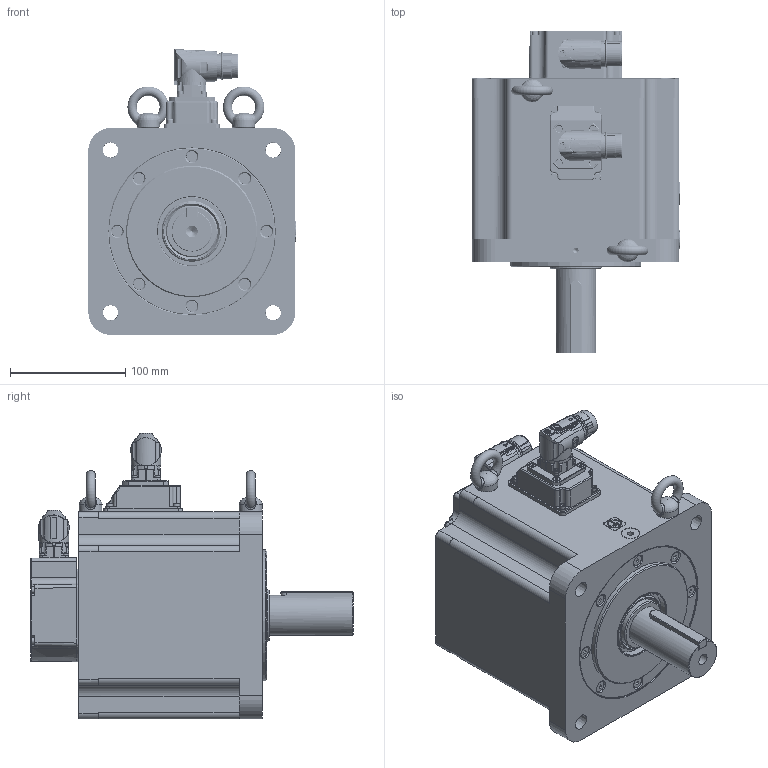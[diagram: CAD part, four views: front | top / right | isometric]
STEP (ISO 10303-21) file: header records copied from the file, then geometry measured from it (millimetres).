
FILE_DESCRIPTION( ( 'Unknown' ), '1' );
FILE_NAME( 'U:/05_Progetto TCE/010-TCE motor drawings/TCE180/vuoti/TCE180 6B XX 3 A2 0 C2.stp', 'Unknown', ( 'Unknown' ), ( 'Unknown' ), 'PSStep 17.0.49', 'Unknown', ' ' );
FILE_SCHEMA( ( 'AUTOMOTIVE_DESIGN { 1 0 10303 214 1 1 1 1 }' ) );
Length unit declared in the file: millimetre
Products named in the file (15): 1; 2; 3; 4; 5; 6; 7; 8; 9; 10; 11; 12; 13; 14; 005911000493
Bounding box: 180.3 x 280 x 248.5 mm (x, y, z)
Volume: 2645675.5 mm3; surface area: 525013.3 mm2
Topology: 15 solids, 106 shells, 3240 faces, 8089 edges, 5224 vertices
Faces by surface type: plane 1536, cylinder 730, cone 367, bspline 274, torus 200, sphere 93, extrusion 38, revolution 2
Full cylindrical faces by diameter (mm): 0.5 x1, 1 x21, 1.2 x17, 1.4 x4, 2 x4, 2.013 x4, 2.2 x2, 2.459 x24, 2.5 x8, 2.6 x4, 2.8 x4, 3 x29, 3.2 x1, 3.242 x6, 3.5 x8, 4 x9, 4.134 x24, 4.4 x12, 4.5 x2, 4.7 x4, 4.917 x2, 5 x4, 5.5 x11, 5.8 x1, 5.9 x2, 6.647 x22, 6.8 x1, 7 x4, 8 x9, 8.5 x4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
Entity records: 142190 total; most frequent: CARTESIAN_POINT 47555, DIRECTION 14185, ORIENTED_EDGE 13744, EDGE_CURVE 6872, AXIS2_PLACEMENT_3D 5387, VERTEX_POINT 4886, EDGE_LOOP 4323, FACE_OUTER_BOUND 3730
